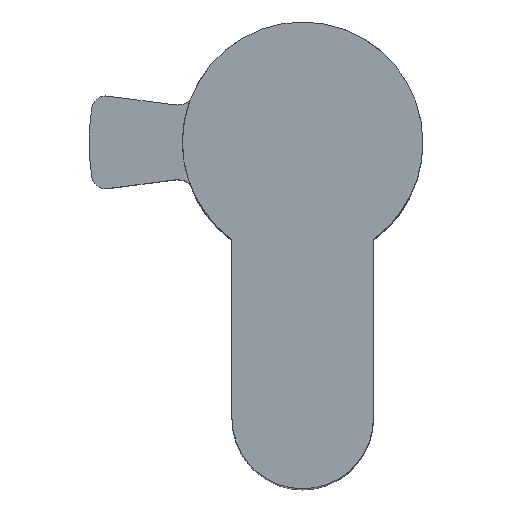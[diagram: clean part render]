
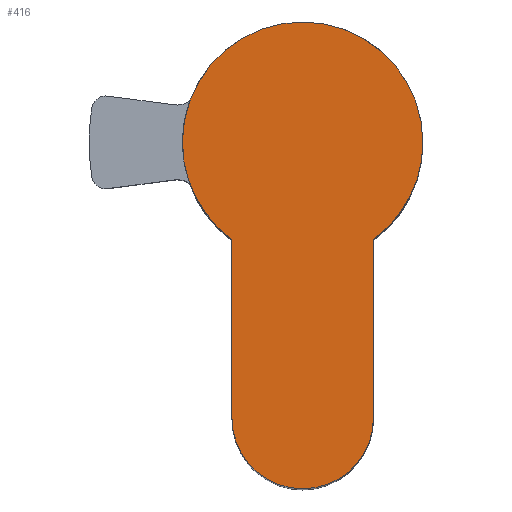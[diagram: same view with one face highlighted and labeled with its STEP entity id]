
A CAD part, top view. The second image highlights one B-rep face of the part: STEP entity #416.
In plain terms, the highlighted planar face has unit normal (0, 0, 1).
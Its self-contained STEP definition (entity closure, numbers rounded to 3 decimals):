
#3 = VERTEX_POINT ( 'NONE', #1283 ) ;
#52 = CARTESIAN_POINT ( 'NONE',  ( 5., -19.5, 10. ) ) ;
#88 = VECTOR ( 'NONE', #1505, 1000. ) ;
#90 = VERTEX_POINT ( 'NONE', #561 ) ;
#91 = CARTESIAN_POINT ( 'NONE',  ( 0., 0., 10. ) ) ;
#162 = DIRECTION ( 'NONE',  ( 0., 0., 1. ) ) ;
#171 = ORIENTED_EDGE ( 'NONE', *, *, #1151, .T. ) ;
#202 = VERTEX_POINT ( 'NONE', #607 ) ;
#221 = ORIENTED_EDGE ( 'NONE', *, *, #1104, .T. ) ;
#223 = DIRECTION ( 'NONE',  ( 1., 0., 0. ) ) ;
#241 = PLANE ( 'NONE',  #1341 ) ;
#292 = VERTEX_POINT ( 'NONE', #395 ) ;
#293 = CARTESIAN_POINT ( 'NONE',  ( 0., -19.5, 10. ) ) ;
#343 = DIRECTION ( 'NONE',  ( 0., 1., 0. ) ) ;
#355 = AXIS2_PLACEMENT_3D ( 'NONE', #293, #162, #905 ) ;
#369 = DIRECTION ( 'NONE',  ( 1., 0., 0. ) ) ;
#390 = CARTESIAN_POINT ( 'NONE',  ( 0., 0., 10. ) ) ;
#395 = CARTESIAN_POINT ( 'NONE',  ( -5., -6.874, 10. ) ) ;
#416 = ADVANCED_FACE ( 'NONE', ( #586 ), #241, .T. ) ;
#488 = EDGE_CURVE ( 'NONE', #1123, #90, #708, .T. ) ;
#515 = VERTEX_POINT ( 'NONE', #1374 ) ;
#549 = DIRECTION ( 'NONE',  ( 0., 0., 1. ) ) ;
#561 = CARTESIAN_POINT ( 'NONE',  ( 5., -6.874, 10. ) ) ;
#578 = AXIS2_PLACEMENT_3D ( 'NONE', #91, #696, #223 ) ;
#579 = CIRCLE ( 'NONE', #355, 5. ) ;
#586 = FACE_OUTER_BOUND ( 'NONE', #1412, .T. ) ;
#607 = CARTESIAN_POINT ( 'NONE',  ( 8.5, 0., 10. ) ) ;
#609 = CIRCLE ( 'NONE', #1394, 8.5 ) ;
#682 = CIRCLE ( 'NONE', #578, 8.5 ) ;
#696 = DIRECTION ( 'NONE',  ( 0., 0., 1. ) ) ;
#705 = EDGE_CURVE ( 'NONE', #292, #3, #796, .T. ) ;
#708 = LINE ( 'NONE', #944, #1263 ) ;
#796 = LINE ( 'NONE', #1018, #88 ) ;
#819 = EDGE_CURVE ( 'NONE', #90, #202, #682, .T. ) ;
#826 = CARTESIAN_POINT ( 'NONE',  ( 0., 0., 10. ) ) ;
#856 = DIRECTION ( 'NONE',  ( 0., 0., 1. ) ) ;
#866 = DIRECTION ( 'NONE',  ( 1., 0., 0. ) ) ;
#893 = AXIS2_PLACEMENT_3D ( 'NONE', #1280, #549, #1494 ) ;
#905 = DIRECTION ( 'NONE',  ( 1., 0., 0. ) ) ;
#944 = CARTESIAN_POINT ( 'NONE',  ( 5., -19.5, 10. ) ) ;
#958 = DIRECTION ( 'NONE',  ( 0., 0., 1. ) ) ;
#1018 = CARTESIAN_POINT ( 'NONE',  ( -5., -6.874, 10. ) ) ;
#1026 = ORIENTED_EDGE ( 'NONE', *, *, #705, .T. ) ;
#1034 = ORIENTED_EDGE ( 'NONE', *, *, #1314, .T. ) ;
#1062 = CIRCLE ( 'NONE', #893, 8.5 ) ;
#1104 = EDGE_CURVE ( 'NONE', #202, #515, #1062, .T. ) ;
#1123 = VERTEX_POINT ( 'NONE', #52 ) ;
#1134 = ORIENTED_EDGE ( 'NONE', *, *, #819, .T. ) ;
#1151 = EDGE_CURVE ( 'NONE', #3, #1123, #579, .T. ) ;
#1263 = VECTOR ( 'NONE', #343, 1000. ) ;
#1280 = CARTESIAN_POINT ( 'NONE',  ( 0., 0., 10. ) ) ;
#1283 = CARTESIAN_POINT ( 'NONE',  ( -5., -19.5, 10. ) ) ;
#1314 = EDGE_CURVE ( 'NONE', #515, #292, #609, .T. ) ;
#1341 = AXIS2_PLACEMENT_3D ( 'NONE', #826, #958, #369 ) ;
#1374 = CARTESIAN_POINT ( 'NONE',  ( -8.5, 0., 10. ) ) ;
#1394 = AXIS2_PLACEMENT_3D ( 'NONE', #390, #856, #866 ) ;
#1412 = EDGE_LOOP ( 'NONE', ( #1134, #221, #1034, #1026, #171, #1436 ) ) ;
#1436 = ORIENTED_EDGE ( 'NONE', *, *, #488, .T. ) ;
#1494 = DIRECTION ( 'NONE',  ( 1., 0., 0. ) ) ;
#1505 = DIRECTION ( 'NONE',  ( 0., -1., 0. ) ) ;
